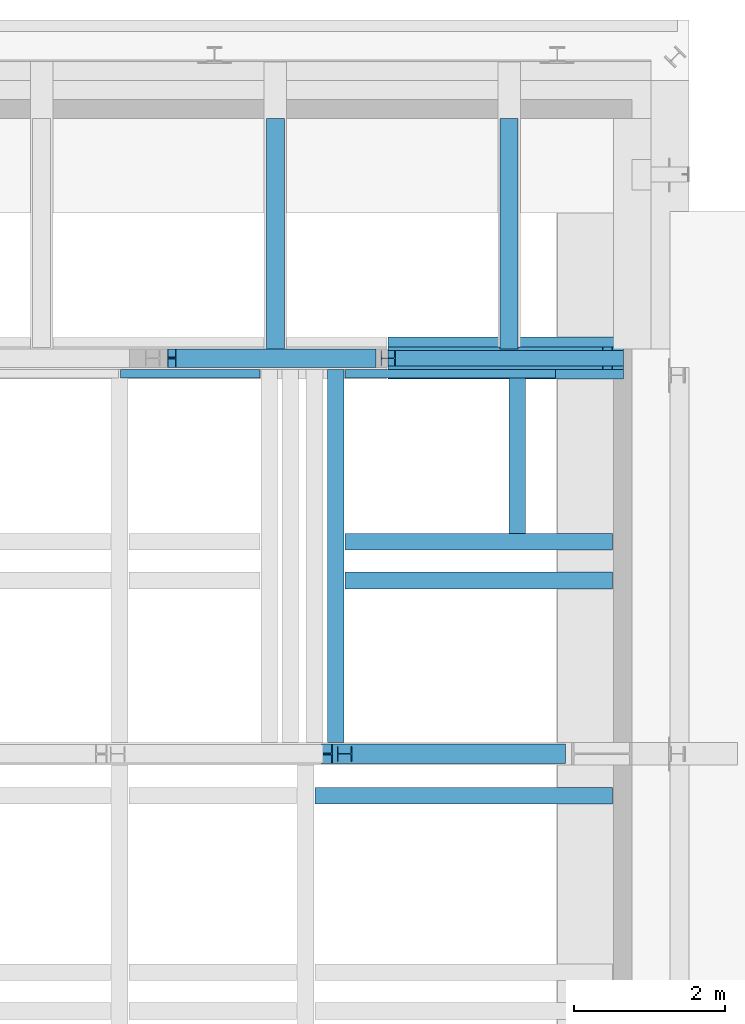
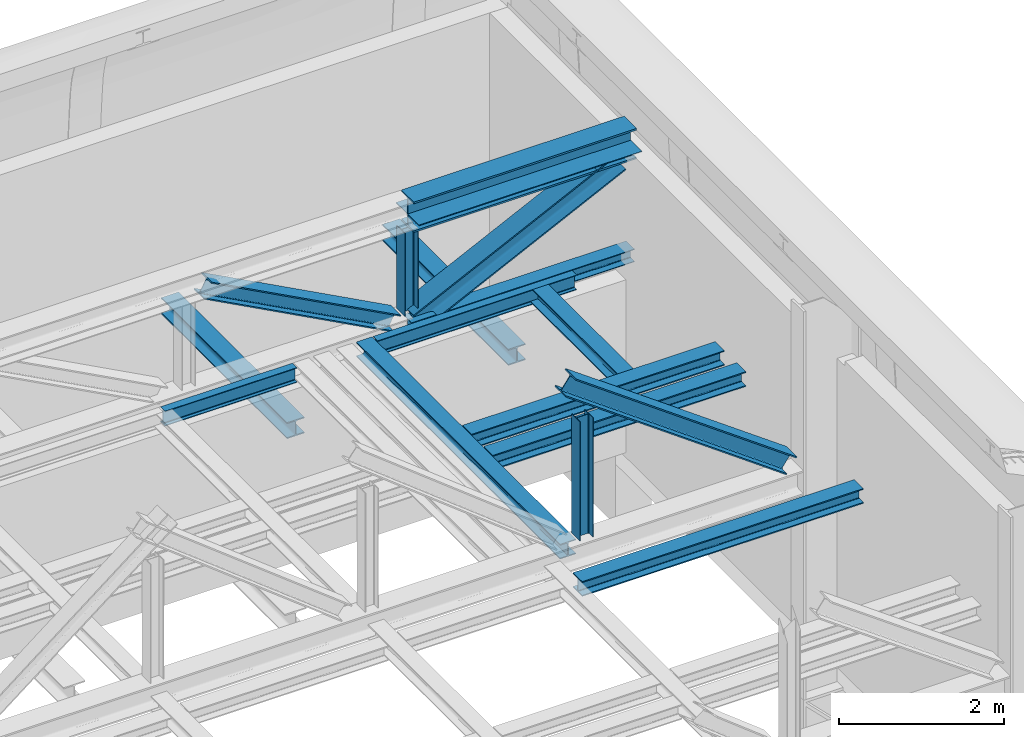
# One storey, part 23 of 29: 16 beams.
"""IFC2X3 building model written with IfcOpenShell, lengths in millimetres."""

import ifcopenshell
import ifcopenshell.guid

model = None  # the IFC model being written
_history = None  # IfcOwnerHistory: only IFC2X3 demands one
_inside = {}  # id of a spatial element -> (the spatial element, [elements in it])
_under = {}  # id of a project, library or spatial element -> (it, [spatial elements below it])
_declared = {}  # id of a project -> (the project, [libraries it declares])
_typed = {}  # id of a type object -> (the type object, [elements of that type])
_made_of = {}  # id of a material, layer set ... -> (it, [elements and type objects made of it])


def new_model(schema):
    """Start an empty IFC model of exactly this schema.

    Asked for "IFC4X3", IfcOpenShell would pick the latest addendum, in which some entities
    have other attributes; the version numbers below select the first issue.
    IFC2X3 requires an IfcOwnerHistory on every rooted entity: one is made here for all.
    """
    global model, _history
    if schema == "IFC4X3":
        model = ifcopenshell.file(schema_version=(4, 3, 0, 0))
    else:
        model = ifcopenshell.file(schema=schema)
    _inside.clear()
    _under.clear()
    _declared.clear()
    _typed.clear()
    _made_of.clear()
    _history = None
    if model.schema == "IFC2X3":
        org = make("IfcOrganization", Name="unknown")
        user = make(
            "IfcPersonAndOrganization",
            ThePerson=make("IfcPerson", FamilyName="unknown"),
            TheOrganization=org,
        )
        app = make(
            "IfcApplication",
            ApplicationDeveloper=org,
            Version="unknown",
            ApplicationFullName="unknown",
            ApplicationIdentifier="unknown",
        )
        _history = make(
            "IfcOwnerHistory",
            OwningUser=user,
            OwningApplication=app,
            ChangeAction="ADDED",
            CreationDate=0,
        )
    return model


def make(cls, **values):
    """One entity of the class cls with the attributes given. An attribute that is None is left unset."""
    return model.create_entity(
        cls, **{name: value for name, value in values.items() if value is not None}
    )


def entity(cls, *values):
    """Any entity or typed value of the class cls, its attributes in the order of the schema. None: left unset."""
    e = model.create_entity(cls)
    for i, value in enumerate(values):
        if value is not None:
            e[i] = value
    return e


def rooted(cls, **values):
    """An entity with a GlobalId (a new one), such as an element, a storey or a relation."""
    return make(cls, GlobalId=ifcopenshell.guid.new(), OwnerHistory=_history, **values)


def si_unit(unit_type, name, prefix=None):
    """IfcSIUnit, for example si_unit("LENGTHUNIT", "METRE", prefix="MILLI")."""
    return make("IfcSIUnit", UnitType=unit_type, Prefix=prefix, Name=name)


def converted_unit(unit_type, name, factor, base, dimensions=None, offset=None):
    """IfcConversionBasedUnit, such as the inch: factor (a typed value) times the base unit."""
    return make(
        "IfcConversionBasedUnit"
        if offset is None
        else "IfcConversionBasedUnitWithOffset",
        ConversionOffset=offset,
        Dimensions=None
        if dimensions is None
        else entity("IfcDimensionalExponents", *dimensions),
        UnitType=unit_type,
        Name=name,
        ConversionFactor=make(
            "IfcMeasureWithUnit", ValueComponent=factor, UnitComponent=base
        ),
    )


def derived_unit(unit_type, elements):
    """IfcDerivedUnit: a product of units, each with its exponent."""
    return make(
        "IfcDerivedUnit",
        Elements=[
            make("IfcDerivedUnitElement", Unit=unit, Exponent=power)
            for unit, power in elements
        ],
        UnitType=unit_type,
    )


def assignment(units):
    """IfcUnitAssignment: the units of a project."""
    return None if units is None else make("IfcUnitAssignment", Units=units)


def point(xyz):
    """IfcCartesianPoint."""
    return None if xyz is None else make("IfcCartesianPoint", Coordinates=xyz)


def direction(xyz):
    """IfcDirection."""
    return None if xyz is None else make("IfcDirection", DirectionRatios=xyz)


def frame(location, z_axis=None, x_axis=None):
    """IfcAxis2Placement3D, a coordinate frame: its origin and axes. An axis left out is left unset."""
    return make(
        "IfcAxis2Placement3D",
        Location=point(location),
        Axis=direction(z_axis),
        RefDirection=direction(x_axis),
    )


def frame_2d(location, x_axis=None):
    """IfcAxis2Placement2D, a coordinate frame in the plane: its origin and x axis."""
    return make(
        "IfcAxis2Placement2D", Location=point(location), RefDirection=direction(x_axis)
    )


def origin():
    """The frame at (0, 0, 0) with its axes left unset."""
    return frame((0.0, 0.0, 0.0))


def place(relative_to, where):
    """IfcLocalPlacement: puts the frame where relative to a parent placement (None: the world)."""
    return make(
        "IfcLocalPlacement", PlacementRelTo=relative_to, RelativePlacement=where
    )


def context(
    kind, dimensions, precision=None, world=None, true_north=None, identifier=None
):
    """IfcGeometricRepresentationContext, for example the 3D "Model" context."""
    return make(
        "IfcGeometricRepresentationContext",
        ContextIdentifier=identifier,
        ContextType=kind,
        CoordinateSpaceDimension=dimensions,
        Precision=precision,
        WorldCoordinateSystem=world,
        TrueNorth=true_north,
    )


def subcontext(parent, identifier, kind, view, scale=None):
    """IfcGeometricRepresentationSubContext, for example "Body" below "Model"."""
    return make(
        "IfcGeometricRepresentationSubContext",
        ContextIdentifier=identifier,
        ContextType=kind,
        ParentContext=parent,
        TargetScale=scale,
        TargetView=view,
    )


def project(units=None, contexts=None):
    """IfcProject with its units and contexts."""
    return rooted(
        "IfcProject",
        Name="project",
        RepresentationContexts=contexts,
        UnitsInContext=assignment(units),
    )


def spatial(cls, under=None, at=None, **own):
    """A site, building, storey or space (cls), placed at a placement, below another one or the project."""
    s = rooted(cls, ObjectPlacement=at, **own)
    if under is not None:
        _under.setdefault(under.id(), (under, []))[1].append(s)
    return s


def polyline(points):
    """IfcPolyline through the points."""
    return make("IfcPolyline", Points=[point(p) for p in points])


def circle_curve(where, radius):
    """IfcCircle in the frame where."""
    return make("IfcCircle", Position=where, Radius=radius)


def parameter(value):
    """IfcParameterValue: where a trimmed curve begins or ends, as a parameter of its basis curve."""
    return model.create_entity("IfcParameterValue", value)


def trimmed(basis, trim1, trim2, sense, master):
    """IfcTrimmedCurve: the piece of a basis curve between two trims."""
    return make(
        "IfcTrimmedCurve",
        BasisCurve=basis,
        Trim1=trim1,
        Trim2=trim2,
        SenseAgreement=sense,
        MasterRepresentation=master,
    )


def segment(curve, same_sense, transition):
    """IfcCompositeCurveSegment."""
    return make(
        "IfcCompositeCurveSegment",
        Transition=transition,
        SameSense=same_sense,
        ParentCurve=curve,
    )


def composite_curve(segments, self_intersect=None):
    """IfcCompositeCurve: segments joined end to end."""
    return make("IfcCompositeCurve", Segments=segments, SelfIntersect=self_intersect)


def profile(cls, at=None, kind="AREA", **sizes):
    """A parametric profile (cls). Its sizes go by their IFC names, for example OverallWidth=200.0."""
    return make(cls, ProfileType=kind, Position=at, **sizes)


def rectangle(**sizes):
    """IfcRectangleProfileDef."""
    return profile("IfcRectangleProfileDef", **sizes)


def i_section(**sizes):
    """IfcIShapeProfileDef."""
    return profile("IfcIShapeProfileDef", **sizes)


def outline(outer, holes=None, kind="AREA"):
    """IfcArbitraryClosedProfileDef: a profile drawn as a closed curve; with holes, ...WithVoids."""
    if holes is None:
        return make("IfcArbitraryClosedProfileDef", ProfileType=kind, OuterCurve=outer)
    return make(
        "IfcArbitraryProfileDefWithVoids",
        ProfileType=kind,
        OuterCurve=outer,
        InnerCurves=holes,
    )


def extrude(swept, where, along, depth):
    """IfcExtrudedAreaSolid: the profile swept, set in the frame where, extruded along a direction by depth."""
    return make(
        "IfcExtrudedAreaSolid",
        SweptArea=swept,
        Position=where,
        ExtrudedDirection=direction(along),
        Depth=depth,
    )


def shape(context_of_items, identifier, shape_type, items):
    """IfcShapeRepresentation: the items that make up one representation, for example the "Body"."""
    return make(
        "IfcShapeRepresentation",
        ContextOfItems=context_of_items,
        RepresentationIdentifier=identifier,
        RepresentationType=shape_type,
        Items=items,
    )


def source(mapping_origin, context_of_items, identifier, shape_type, items):
    """IfcRepresentationMap: a shape defined once, which mapped items show again and again."""
    return make(
        "IfcRepresentationMap",
        MappingOrigin=mapping_origin,
        MappedRepresentation=shape(context_of_items, identifier, shape_type, items),
    )


def transform(
    local_origin,
    x_axis=None,
    y_axis=None,
    z_axis=None,
    scale=None,
    scale2=None,
    scale3=None,
    uniform=True,
):
    """IfcCartesianTransformationOperator3D, or its non-uniform kind. x_axis, y_axis, z_axis: its Axis1, 2, 3."""
    if uniform:
        return make(
            "IfcCartesianTransformationOperator3D",
            Axis1=direction(x_axis),
            Axis2=direction(y_axis),
            LocalOrigin=point(local_origin),
            Scale=scale,
            Axis3=direction(z_axis),
        )
    return make(
        "IfcCartesianTransformationOperator3DnonUniform",
        Axis1=direction(x_axis),
        Axis2=direction(y_axis),
        LocalOrigin=point(local_origin),
        Scale=scale,
        Axis3=direction(z_axis),
        Scale2=scale2,
        Scale3=scale3,
    )


def mapped(mapping_source, mapping_target):
    """IfcMappedItem: shows the shape of a source again, moved by a transform."""
    return make(
        "IfcMappedItem", MappingSource=mapping_source, MappingTarget=mapping_target
    )


def material(Name=None, Category=None):
    """IfcMaterial."""
    return make("IfcMaterial", Name=Name, Category=Category)


def material_list(materials):
    """IfcMaterialList."""
    return make("IfcMaterialList", Materials=materials)


def made_of(thing, what):
    """Note that an element or type object is made of a material, layer set ...; save() writes the relation."""
    if what is not None:
        _made_of.setdefault(what.id(), (what, []))[1].append(thing)
    return thing


def type_object(cls, material=None, **own):
    """A type object (cls), such as IfcWallType, which elements share."""
    return made_of(rooted(cls, **own), material)


def type_shapes(of_type, sources):
    """Give a type object the sources (RepresentationMaps) that its elements show as mapped items."""
    of_type.RepresentationMaps = sources


def element(
    cls,
    number,
    at=None,
    inside=None,
    cuts=None,
    type_object=None,
    material=None,
    context=None,
    identifier="Body",
    shape_type=None,
    held_by="IfcProductDefinitionShape",
    body=None,
    shapes=None,
    **own,
):
    """One element of the class cls, such as IfcWall. Its Tag is "e" and its number.

    at: its placement. inside: the storey or other place that contains it. cuts: it is an
    opening in that element (IfcRelVoidsElement). A single representation is given by context,
    identifier, shape_type and body (its items); several are given by shapes. held_by: the class
    of the entity that holds the representations. save() writes the other relations.
    """
    e = rooted(cls, Tag="e%d" % number, ObjectPlacement=at, **own)
    if body is not None:
        shapes = [shape(context, identifier, shape_type, body)]
    if shapes is not None:
        e.Representation = make(held_by, Representations=shapes)
    if inside is not None:
        _inside.setdefault(inside.id(), (inside, []))[1].append(e)
    if cuts is not None:
        rooted(
            "IfcRelVoidsElement", RelatingBuildingElement=cuts, RelatedOpeningElement=e
        )
    if type_object is not None:
        _typed.setdefault(type_object.id(), (type_object, []))[1].append(e)
    return made_of(e, material)


def aggregate(whole, parts):
    """IfcRelAggregates: a whole, such as a stair, and the parts it consists of."""
    return rooted("IfcRelAggregates", RelatingObject=whole, RelatedObjects=parts)


def save(model, path):
    """Write the relations noted so far, then the file.

    IfcRelAggregates (storeys below a building ...), IfcRelContainedInSpatialStructure (elements
    in a storey), IfcRelDefinesByType, IfcRelAssociatesMaterial and IfcRelDeclares: one each for
    every whole, place, type object, material and project.
    """
    for whole, parts in _under.values():
        aggregate(whole, parts)
    for where, things in _inside.values():
        rooted(
            "IfcRelContainedInSpatialStructure",
            RelatedElements=things,
            RelatingStructure=where,
        )
    for kind, things in _typed.values():
        rooted("IfcRelDefinesByType", RelatedObjects=things, RelatingType=kind)
    for what, things in _made_of.values():
        rooted("IfcRelAssociatesMaterial", RelatedObjects=things, RelatingMaterial=what)
    for by, libraries in _declared.values():
        rooted("IfcRelDeclares", RelatingContext=by, RelatedDefinitions=libraries)
    model.write(path)


model = new_model("IFC2X3")

# Units and contexts
model_context = context("Model", 3, precision=0.01, world=origin(), true_north=direction((6.12303176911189e-17, 1.0)))
body_context = subcontext(model_context, "Body", "Model", "MODEL_VIEW")
ifc_project = project(units=[si_unit("LENGTHUNIT", "METRE", prefix="MILLI"), si_unit("AREAUNIT", "SQUARE_METRE", prefix="MILLI"), si_unit("VOLUMEUNIT", "CUBIC_METRE"), converted_unit("PLANEANGLEUNIT", "DEGREE", entity("IfcRatioMeasure", 0.0174532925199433), si_unit("PLANEANGLEUNIT", "RADIAN"), dimensions=[0, 0, 0, 0, 0, 0, 0]), si_unit("MASSUNIT", "GRAM", prefix="KILO"), derived_unit("MASSDENSITYUNIT", [(si_unit("MASSUNIT", "GRAM", prefix="KILO"), 1), (si_unit("LENGTHUNIT", "METRE"), -3)]), derived_unit("MOMENTOFINERTIAUNIT", [(si_unit("LENGTHUNIT", "METRE"), 4)]), si_unit("TIMEUNIT", "SECOND"), si_unit("FREQUENCYUNIT", "HERTZ"), si_unit("THERMODYNAMICTEMPERATUREUNIT", "DEGREE_CELSIUS"), derived_unit("THERMALTRANSMITTANCEUNIT", [(si_unit("MASSUNIT", "GRAM", prefix="KILO"), 1), (si_unit("THERMODYNAMICTEMPERATUREUNIT", "KELVIN"), -1), (si_unit("TIMEUNIT", "SECOND"), -3)]), derived_unit("VOLUMETRICFLOWRATEUNIT", [(si_unit("LENGTHUNIT", "METRE"), 3), (si_unit("TIMEUNIT", "SECOND"), -1)]), si_unit("ELECTRICCURRENTUNIT", "AMPERE"), si_unit("ELECTRICVOLTAGEUNIT", "VOLT"), si_unit("POWERUNIT", "WATT"), si_unit("FORCEUNIT", "NEWTON", prefix="KILO"), si_unit("ILLUMINANCEUNIT", "LUX"), si_unit("LUMINOUSFLUXUNIT", "LUMEN"), si_unit("LUMINOUSINTENSITYUNIT", "CANDELA"), derived_unit("USERDEFINED", [(si_unit("MASSUNIT", "GRAM", prefix="KILO"), -1), (si_unit("LENGTHUNIT", "METRE"), -2), (si_unit("TIMEUNIT", "SECOND"), 3), (si_unit("LUMINOUSFLUXUNIT", "LUMEN"), 1)]), derived_unit("LINEARVELOCITYUNIT", [(si_unit("LENGTHUNIT", "METRE"), 1), (si_unit("TIMEUNIT", "SECOND"), -1)]), si_unit("PRESSUREUNIT", "PASCAL"), derived_unit("USERDEFINED", [(si_unit("LENGTHUNIT", "METRE"), -2), (si_unit("MASSUNIT", "GRAM", prefix="KILO"), 1), (si_unit("TIMEUNIT", "SECOND"), -2)]), derived_unit("LINEARFORCEUNIT", [(si_unit("MASSUNIT", "GRAM", prefix="KILO"), 1), (si_unit("LENGTHUNIT", "METRE"), 1), (si_unit("TIMEUNIT", "SECOND"), -2), (si_unit("LENGTHUNIT", "METRE"), -1)]), derived_unit("PLANARFORCEUNIT", [(si_unit("MASSUNIT", "GRAM", prefix="KILO"), 1), (si_unit("LENGTHUNIT", "METRE"), 1), (si_unit("TIMEUNIT", "SECOND"), -2), (si_unit("LENGTHUNIT", "METRE"), -2)])], contexts=[model_context])

# Site, building, storey
site_placement = place(None, origin())
site = spatial("IfcSite", under=ifc_project, at=site_placement, Name="Theater aan de Parade", CompositionType="ELEMENT")
building_placement = place(site_placement, origin())
building = spatial("IfcBuilding", under=site, at=building_placement, Name="Theater aan de Parade", CompositionType="ELEMENT")
storey_placement = place(building_placement, frame((0.0, 0.0, 20300.0)))
storey = spatial("IfcBuildingStorey", under=building, at=storey_placement, Name="05 vijfde verdieping", CompositionType="ELEMENT", Elevation=20300.0)

# Beams
ifc_material_1 = material(Name="00_PBT_MAT_staal_S355")
beam_type_1 = type_object("IfcBeamType", Name="28_PBT_SF_staal_H-profiel:S355_HE220B", PredefinedType="NOTDEFINED")
beam_1_placement = place(storey_placement, frame((86180.0, 42712.5000000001, 0.0), z_axis=(0.0, 0.0, 1.0), x_axis=(-1.0, 0.0, 0.0)))
element("IfcBeam", 1, at=beam_1_placement, inside=storey, type_object=beam_type_1, material=ifc_material_1, Name="28_PBT_SF_staal_H-profiel:S355_HE220B", ObjectType="28_PBT_SF_staal_H-profiel:S355_HE220B", context=body_context, shape_type="SweptSolid", body=[
    extrude(outline(composite_curve([segment(polyline([(94.0, -110.0), (110.0, -110.0)]), True, "CONTINUOUS"), segment(polyline([(110.0, -110.0), (110.0, 110.0)]), True, "CONTINUOUS"), segment(polyline([(110.0, 110.0), (94.0, 110.0)]), True, "CONTINUOUS"), segment(polyline([(94.0, 110.0), (94.0, 22.7500000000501)]), True, "CONTINUOUS"), segment(trimmed(circle_curve(frame_2d((76.0, 22.7500000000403), x_axis=(1.0, 0.0)), 17.9999999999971), [parameter(269.999999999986)], [parameter(0.0)], True, "PARAMETER"), False, "CONTINUOUS"), segment(polyline([(76.0, 4.75000000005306), (-76.0, 4.7499999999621)]), True, "CONTINUOUS"), segment(trimmed(circle_curve(frame_2d((-76.0, 22.749999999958), x_axis=(0.0, -1.0)), 17.9999999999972), [parameter(269.999999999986)], [parameter(0.0)], True, "PARAMETER"), False, "CONTINUOUS"), segment(polyline([(-94.0, 22.7499999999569), (-94.0, 110.0)]), True, "CONTINUOUS"), segment(polyline([(-94.0, 110.0), (-110.0, 110.0)]), True, "CONTINUOUS"), segment(polyline([(-110.0, 110.0), (-110.0, -110.0)]), True, "CONTINUOUS"), segment(polyline([(-110.0, -110.0), (-94.0, -110.0)]), True, "CONTINUOUS"), segment(polyline([(-94.0, -110.0), (-94.0, -22.7500000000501)]), True, "CONTINUOUS"), segment(trimmed(circle_curve(frame_2d((-76.0, -22.7500000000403), x_axis=(-1.0, 0.0)), 17.9999999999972), [parameter(269.999999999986)], [parameter(0.0)], True, "PARAMETER"), False, "CONTINUOUS"), segment(polyline([(-76.0, -4.75000000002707), (76.0, -4.74999999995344)]), True, "CONTINUOUS"), segment(trimmed(circle_curve(frame_2d((76.0, -22.749999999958), x_axis=(0.0, 1.0)), 17.9999999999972), [parameter(269.999999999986)], [parameter(0.0)], True, "PARAMETER"), False, "CONTINUOUS"), segment(polyline([(94.0, -22.7499999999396), (94.0, -110.0)]), True, "CONTINUOUS")], self_intersect=False)), frame((137.699999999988, 0.0, 2360.0), z_axis=(1.0, 0.0, 0.0), x_axis=(0.0, 0.0, -1.0)), (0.0, 0.0, 1.0), 3529.60000000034),
])
beam_2_placement = place(storey_placement, frame((86180.0, 42198.4998000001, 0.0), z_axis=(0.0, 0.0, 1.0), x_axis=(-1.0, 0.0, 0.0)))
element("IfcBeam", 2, at=beam_2_placement, inside=storey, type_object=beam_type_1, material=ifc_material_1, Name="28_PBT_SF_staal_H-profiel:S355_HE220B", ObjectType="28_PBT_SF_staal_H-profiel:S355_HE220B", context=body_context, shape_type="SweptSolid", body=[
    extrude(outline(composite_curve([segment(polyline([(94.0, -110.0), (110.0, -110.0)]), True, "CONTINUOUS"), segment(polyline([(110.0, -110.0), (110.0, 110.0)]), True, "CONTINUOUS"), segment(polyline([(110.0, 110.0), (94.0, 110.0)]), True, "CONTINUOUS"), segment(polyline([(94.0, 110.0), (94.0, 22.7500000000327)]), True, "CONTINUOUS"), segment(trimmed(circle_curve(frame_2d((76.0, 22.750000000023), x_axis=(1.0, 0.0)), 17.9999999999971), [parameter(269.999999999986)], [parameter(0.0)], True, "PARAMETER"), False, "CONTINUOUS"), segment(polyline([(76.0, 4.75000000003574), (-76.0, 4.74999999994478)]), True, "CONTINUOUS"), segment(trimmed(circle_curve(frame_2d((-76.0, 22.7499999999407), x_axis=(0.0, -1.0)), 17.9999999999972), [parameter(269.999999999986)], [parameter(0.0)], True, "PARAMETER"), False, "CONTINUOUS"), segment(polyline([(-94.0, 22.7499999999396), (-94.0, 110.0)]), True, "CONTINUOUS"), segment(polyline([(-94.0, 110.0), (-110.0, 110.0)]), True, "CONTINUOUS"), segment(polyline([(-110.0, 110.0), (-110.0, -110.0)]), True, "CONTINUOUS"), segment(polyline([(-110.0, -110.0), (-94.0, -110.0)]), True, "CONTINUOUS"), segment(polyline([(-94.0, -110.0), (-94.0, -22.7500000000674)]), True, "CONTINUOUS"), segment(trimmed(circle_curve(frame_2d((-76.0, -22.7500000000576), x_axis=(-1.0, 0.0)), 17.9999999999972), [parameter(269.999999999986)], [parameter(0.0)], True, "PARAMETER"), False, "CONTINUOUS"), segment(polyline([(-76.0, -4.7500000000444), (76.0, -4.74999999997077)]), True, "CONTINUOUS"), segment(trimmed(circle_curve(frame_2d((76.0, -22.7499999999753), x_axis=(0.0, 1.0)), 17.9999999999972), [parameter(269.999999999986)], [parameter(0.0)], True, "PARAMETER"), False, "CONTINUOUS"), segment(polyline([(94.0, -22.7499999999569), (94.0, -110.0)]), True, "CONTINUOUS")], self_intersect=False)), frame((137.700000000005, 0.0, 2360.0), z_axis=(1.0, 0.0, 0.0), x_axis=(0.0, 0.0, -1.0)), (0.0, 0.0, 1.0), 3529.60000000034),
])
beam_3_placement = place(storey_placement, frame((86180.0, 39355.4997999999, 0.0), z_axis=(0.0, 0.0, 1.0), x_axis=(-1.0, 0.0, 0.0)))
element("IfcBeam", 3, at=beam_3_placement, inside=storey, type_object=beam_type_1, material=ifc_material_1, Name="28_PBT_SF_staal_H-profiel:S355_HE220B", ObjectType="28_PBT_SF_staal_H-profiel:S355_HE220B", context=body_context, shape_type="SweptSolid", body=[
    extrude(outline(composite_curve([segment(polyline([(94.0, -110.0), (110.0, -110.0)]), True, "CONTINUOUS"), segment(polyline([(110.0, -110.0), (110.0, 110.0)]), True, "CONTINUOUS"), segment(polyline([(110.0, 110.0), (94.0, 110.0)]), True, "CONTINUOUS"), segment(polyline([(94.0, 110.0), (94.0, 22.7500000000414)]), True, "CONTINUOUS"), segment(trimmed(circle_curve(frame_2d((76.0, 22.7500000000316), x_axis=(1.0, 0.0)), 17.9999999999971), [parameter(269.999999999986)], [parameter(0.0)], True, "PARAMETER"), False, "CONTINUOUS"), segment(polyline([(76.0, 4.7500000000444), (-76.0, 4.74999999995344)]), True, "CONTINUOUS"), segment(trimmed(circle_curve(frame_2d((-76.0, 22.7499999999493), x_axis=(0.0, -1.0)), 17.9999999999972), [parameter(269.999999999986)], [parameter(0.0)], True, "PARAMETER"), False, "CONTINUOUS"), segment(polyline([(-94.0, 22.7499999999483), (-94.0, 110.0)]), True, "CONTINUOUS"), segment(polyline([(-94.0, 110.0), (-110.0, 110.0)]), True, "CONTINUOUS"), segment(polyline([(-110.0, 110.0), (-110.0, -110.0)]), True, "CONTINUOUS"), segment(polyline([(-110.0, -110.0), (-94.0, -110.0)]), True, "CONTINUOUS"), segment(polyline([(-94.0, -110.0), (-94.0, -22.7500000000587)]), True, "CONTINUOUS"), segment(trimmed(circle_curve(frame_2d((-76.0, -22.750000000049), x_axis=(-1.0, 0.0)), 17.9999999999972), [parameter(269.999999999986)], [parameter(0.0)], True, "PARAMETER"), False, "CONTINUOUS"), segment(polyline([(-76.0, -4.75000000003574), (76.0, -4.7499999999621)]), True, "CONTINUOUS"), segment(trimmed(circle_curve(frame_2d((76.0, -22.7499999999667), x_axis=(0.0, 1.0)), 17.9999999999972), [parameter(269.999999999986)], [parameter(0.0)], True, "PARAMETER"), False, "CONTINUOUS"), segment(polyline([(94.0, -22.7499999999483), (94.0, -110.0)]), True, "CONTINUOUS")], self_intersect=False)), frame((137.699999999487, 0.0, 2360.0), z_axis=(1.0, 0.0, 0.0), x_axis=(0.0, 0.0, -1.0)), (0.0, 0.0, 1.0), 3924.60000000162),
])
beam_4_placement = place(storey_placement, frame((84787.5133272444, 42822.5000000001, 0.0), z_axis=(0.0, 0.0, 1.0), x_axis=(0.0, 1.0, 0.0)))
element("IfcBeam", 4, at=beam_4_placement, inside=storey, type_object=beam_type_1, material=ifc_material_1, Name="28_PBT_SF_staal_H-profiel:S355_HE220B", ObjectType="28_PBT_SF_staal_H-profiel:S355_HE220B", context=body_context, shape_type="SweptSolid", body=[
    extrude(outline(composite_curve([segment(polyline([(94.0, -110.0), (110.0, -110.0)]), True, "CONTINUOUS"), segment(polyline([(110.0, -110.0), (110.0, 110.0)]), True, "CONTINUOUS"), segment(polyline([(110.0, 110.0), (94.0, 110.0)]), True, "CONTINUOUS"), segment(polyline([(94.0, 110.0), (94.0, 22.7499999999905)]), True, "CONTINUOUS"), segment(trimmed(circle_curve(frame_2d((76.0, 22.7499999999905), x_axis=(1.0, 0.0)), 17.9999999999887), [parameter(269.999999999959)], [parameter(0.0)], True, "PARAMETER"), False, "CONTINUOUS"), segment(polyline([(76.0, 4.74999999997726), (-76.0, 4.74999999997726)]), True, "CONTINUOUS"), segment(trimmed(circle_curve(frame_2d((-76.0, 22.7499999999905), x_axis=(0.0, -1.0)), 17.9999999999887), [parameter(269.999999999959)], [parameter(0.0)], True, "PARAMETER"), False, "CONTINUOUS"), segment(polyline([(-94.0, 22.7499999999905), (-94.0, 110.0)]), True, "CONTINUOUS"), segment(polyline([(-94.0, 110.0), (-110.0, 110.0)]), True, "CONTINUOUS"), segment(polyline([(-110.0, 110.0), (-110.0, -110.0)]), True, "CONTINUOUS"), segment(polyline([(-110.0, -110.0), (-94.0, -110.0)]), True, "CONTINUOUS"), segment(polyline([(-94.0, -110.0), (-94.0, -22.7500000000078)]), True, "CONTINUOUS"), segment(trimmed(circle_curve(frame_2d((-76.0, -22.7500000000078), x_axis=(-1.0, 0.0)), 17.9999999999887), [parameter(269.999999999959)], [parameter(0.0)], True, "PARAMETER"), False, "CONTINUOUS"), segment(polyline([(-76.0, -4.75000000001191), (76.0, -4.75000000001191)]), True, "CONTINUOUS"), segment(trimmed(circle_curve(frame_2d((76.0, -22.7500000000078), x_axis=(0.0, 1.0)), 17.9999999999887), [parameter(269.999999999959)], [parameter(0.0)], True, "PARAMETER"), False, "CONTINUOUS"), segment(polyline([(94.0, -22.7500000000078), (94.0, -110.0)]), True, "CONTINUOUS")], self_intersect=False)), frame((0.0, 0.0, 2360.0), z_axis=(1.0, 0.0, 0.0), x_axis=(0.0, 0.0, -1.0)), (0.0, 0.0, 1.0), 2162.49999999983),
])
beam_5_placement = place(storey_placement, frame((82390.0, 40060.0, 0.0), z_axis=(0.0, 0.0, 1.0), x_axis=(0.0, 1.0, 0.0)))
element("IfcBeam", 5, at=beam_5_placement, inside=storey, type_object=beam_type_1, material=ifc_material_1, Name="28_PBT_SF_staal_H-profiel:S355_HE220B", ObjectType="28_PBT_SF_staal_H-profiel:S355_HE220B", context=body_context, shape_type="SweptSolid", body=[
    extrude(outline(composite_curve([segment(polyline([(94.0, -110.0), (110.0, -110.0)]), True, "CONTINUOUS"), segment(polyline([(110.0, -110.0), (110.0, 110.0)]), True, "CONTINUOUS"), segment(polyline([(110.0, 110.0), (94.0, 110.0)]), True, "CONTINUOUS"), segment(polyline([(94.0, 110.0), (94.0, 22.7500000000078)]), True, "CONTINUOUS"), segment(trimmed(circle_curve(frame_2d((76.0, 22.7500000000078), x_axis=(1.0, 0.0)), 17.9999999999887), [parameter(269.999999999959)], [parameter(0.0)], True, "PARAMETER"), False, "CONTINUOUS"), segment(polyline([(76.0, 4.74999999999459), (-76.0, 4.74999999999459)]), True, "CONTINUOUS"), segment(trimmed(circle_curve(frame_2d((-76.0, 22.7500000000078), x_axis=(0.0, -1.0)), 17.9999999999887), [parameter(269.999999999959)], [parameter(0.0)], True, "PARAMETER"), False, "CONTINUOUS"), segment(polyline([(-94.0, 22.7500000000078), (-94.0, 110.0)]), True, "CONTINUOUS"), segment(polyline([(-94.0, 110.0), (-110.0, 110.0)]), True, "CONTINUOUS"), segment(polyline([(-110.0, 110.0), (-110.0, -110.0)]), True, "CONTINUOUS"), segment(polyline([(-110.0, -110.0), (-94.0, -110.0)]), True, "CONTINUOUS"), segment(polyline([(-94.0, -110.0), (-94.0, -22.7499999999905)]), True, "CONTINUOUS"), segment(trimmed(circle_curve(frame_2d((-76.0, -22.7499999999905), x_axis=(-1.0, 0.0)), 17.9999999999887), [parameter(269.999999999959)], [parameter(0.0)], True, "PARAMETER"), False, "CONTINUOUS"), segment(polyline([(-76.0, -4.74999999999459), (76.0, -4.74999999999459)]), True, "CONTINUOUS"), segment(trimmed(circle_curve(frame_2d((76.0, -22.7499999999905), x_axis=(0.0, 1.0)), 17.9999999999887), [parameter(269.999999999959)], [parameter(0.0)], True, "PARAMETER"), False, "CONTINUOUS"), segment(polyline([(94.0, -22.7499999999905), (94.0, -110.0)]), True, "CONTINUOUS")], self_intersect=False)), frame((0.0, 0.0, 2360.0), z_axis=(1.0, 0.0, 0.0), x_axis=(0.0, 0.0, -1.0)), (0.0, 0.0, 1.0), 4925.00000000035),
])
beam_type_2 = type_object("IfcBeamType", Name="28_PBT_SF_staal_H-profiel:S355_HE300B", PredefinedType="NOTDEFINED")
beam_6_placement = place(storey_placement, frame((83045.1604217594, 45135.0, 2400.0), z_axis=(-0.437012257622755, 0.0, 0.899455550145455), x_axis=(0.899455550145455, 0.0, 0.437012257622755)))
element("IfcBeam", 6, at=beam_6_placement, inside=storey, type_object=beam_type_2, material=ifc_material_1, Name="28_PBT_SF_staal_H-profiel:S355_HE300B", ObjectType="28_PBT_SF_staal_H-profiel:S355_HE300B", context=body_context, shape_type="SweptSolid", body=[
    extrude(i_section(OverallWidth=300.000000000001, OverallDepth=299.999999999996, WebThickness=10.9999999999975, FlangeThickness=18.9999999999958, FilletRadius=26.9999999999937, at=frame_2d((0.0, -1.73230318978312e-11), x_axis=(0.0, 1.0))), frame((110.718297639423, 0.0, 0.0), z_axis=(1.0, 0.0, 0.0), x_axis=(0.0, 0.0, -1.0)), (0.0, 0.0, 1.0), 3151.58170236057),
])
beam_type_3 = type_object("IfcBeamType", Name="28_PBT_SF_staal_H-profiel:S355_HE200A", PredefinedType="NOTDEFINED")
beam_7_placement = place(storey_placement, frame((82507.137310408, 39910.0, 2429.0), z_axis=(1.0, 0.0, 0.0), x_axis=(0.0, 0.0, 1.0)))
element("IfcBeam", 7, at=beam_7_placement, inside=storey, type_object=beam_type_3, material=ifc_material_1, Name="28_PBT_SF_staal_H-profiel:S355_HE200A", ObjectType="28_PBT_SF_staal_H-profiel:S355_HE200A", context=body_context, shape_type="SweptSolid", body=[
    extrude(i_section(OverallWidth=199.999999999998, OverallDepth=189.999999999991, WebThickness=6.49999999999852, FlangeThickness=9.99999999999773, FilletRadius=17.9999999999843, at=frame_2d((0.0, -4.33431068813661e-12), x_axis=(0.0, 1.0))), frame((192.700000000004, 0.0, 0.0), z_axis=(1.0, 0.0, 0.0), x_axis=(0.0, 0.0, -1.0)), (0.0, 0.0, 1.0), 1757.6),
])
beam_8_placement = place(storey_placement, frame((83081.2561009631, 45135.0, 2400.0), z_axis=(1.0, 0.0, 0.0), x_axis=(0.0, 0.0, 1.0)))
element("IfcBeam", 8, at=beam_8_placement, inside=storey, type_object=beam_type_3, material=ifc_material_1, Name="28_PBT_SF_staal_H-profiel:S355_HE200A", ObjectType="28_PBT_SF_staal_H-profiel:S355_HE200A", context=body_context, shape_type="SweptSolid", body=[
    extrude(i_section(OverallWidth=200.000000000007, OverallDepth=189.999999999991, WebThickness=6.50000000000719, FlangeThickness=9.99999999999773, FilletRadius=17.9999999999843, at=frame_2d((0.0, 4.33431068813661e-12), x_axis=(0.0, 1.0))), frame((162.699999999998, 0.0, 0.0), z_axis=(1.0, 0.0, 0.0), x_axis=(0.0, 0.0, -1.0)), (0.0, 0.0, 1.0), 1224.60000000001),
])
beam_9_placement = place(storey_placement, frame((83081.2561009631, 45135.0, 2345.0)))
element("IfcBeam", 9, at=beam_9_placement, inside=storey, type_object=beam_type_3, material=ifc_material_1, Name="28_PBT_SF_staal_H-profiel:S355_HE200A", ObjectType="28_PBT_SF_staal_H-profiel:S355_HE200A", context=body_context, shape_type="SweptSolid", body=[
    extrude(i_section(OverallWidth=200.000000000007, OverallDepth=190.0, WebThickness=6.49999999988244, FlangeThickness=9.99999999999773, FilletRadius=17.9999999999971, at=frame_2d((-4.33431068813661e-12, -4.33431068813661e-12), x_axis=(0.0, 1.0))), frame((0.0, 0.0, 0.0), z_axis=(1.0, 0.0, 0.0), x_axis=(0.0, 0.0, -1.0)), (0.0, 0.0, 1.0), 3110.00000000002),
])
beam_type_4 = type_object("IfcBeamType", Name="28_PBT_SF_staal_H-profiel:S355_HE260B", PredefinedType="NOTDEFINED")
beam_10_placement = place(storey_placement, frame((82270.241600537, 39910.0, 4949.0), z_axis=(0.586032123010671, 0.0, 0.810287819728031), x_axis=(0.810287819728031, 0.0, -0.586032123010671)))
element("IfcBeam", 10, at=beam_10_placement, inside=storey, type_object=beam_type_4, material=ifc_material_1, Name="28_PBT_SF_staal_H-profiel:S355_HE260B", ObjectType="28_PBT_SF_staal_H-profiel:S355_HE260B", context=body_context, shape_type="SweptSolid", body=[
    extrude(i_section(OverallWidth=260.000000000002, OverallDepth=260.000000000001, WebThickness=9.99999999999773, FlangeThickness=17.4999999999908, FilletRadius=24.0000000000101, at=frame_2d((-1.03455022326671e-11, 1.29887212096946e-11), x_axis=(0.0, 1.0))), frame((0.0, 0.0, 0.0), z_axis=(1.0, 0.0, 0.0), x_axis=(0.0, 0.0, -1.0)), (0.0, 0.0, 1.0), 3800.50834761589),
])
beam_type_5 = type_object("IfcBeamType", Name="28_PBT_SF_staal_H-profiel:S355_HE240B", PredefinedType="NOTDEFINED")
beam_11_placement = place(storey_placement, frame((79971.2561009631, 45135.0, 4062.5), z_axis=(0.471434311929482, 0.0, 0.88190117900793), x_axis=(0.88190117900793, 0.0, -0.471434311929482)))
element("IfcBeam", 11, at=beam_11_placement, inside=storey, type_object=beam_type_5, material=ifc_material_1, Name="28_PBT_SF_staal_H-profiel:S355_HE240B", ObjectType="28_PBT_SF_staal_H-profiel:S355_HE240B", context=body_context, shape_type="SweptSolid", body=[
    extrude(i_section(OverallWidth=239.999999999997, OverallDepth=240.0, WebThickness=9.99999999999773, FlangeThickness=16.9999999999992, FilletRadius=21.0000000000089, at=frame_2d((1.91135995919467e-12, 0.0), x_axis=(0.0, 1.0))), frame((287.015721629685, 0.0, 0.0), z_axis=(1.0, 0.0, 0.0), x_axis=(0.0, 0.0, -1.0)), (0.0, 0.0, 1.0), 2995.26646657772),
])
beam_12_placement = place(storey_placement, frame((84679.5647725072, 48302.0, 0.0), z_axis=(0.0, 0.0, 1.0), x_axis=(0.0, -1.0, 0.0)))
element("IfcBeam", 12, at=beam_12_placement, inside=storey, type_object=beam_type_5, material=ifc_material_1, Name="28_PBT_SF_staal_H-profiel:S355_HE240B", ObjectType="28_PBT_SF_staal_H-profiel:S355_HE240B", context=body_context, shape_type="SweptSolid", body=[
    extrude(i_section(OverallWidth=239.999999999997, OverallDepth=239.999999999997, WebThickness=9.99999999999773, FlangeThickness=17.0000000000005, FilletRadius=20.9999999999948, at=frame_2d((-4.33431068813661e-12, -8.66151594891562e-12), x_axis=(0.0, 1.0))), frame((0.0, 0.0, 1275.0), z_axis=(1.0, 0.0, 0.0), x_axis=(0.0, 0.0, -1.0)), (0.0, 0.0, 1.0), 3041.99999999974),
])
beam_13_placement = place(storey_placement, frame((81592.5266654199, 48302.0, 0.0), z_axis=(0.0, 0.0, 1.0), x_axis=(0.0, -1.0, 0.0)))
element("IfcBeam", 13, at=beam_13_placement, inside=storey, type_object=beam_type_5, material=ifc_material_1, Name="28_PBT_SF_staal_H-profiel:S355_HE240B", ObjectType="28_PBT_SF_staal_H-profiel:S355_HE240B", context=body_context, shape_type="SweptSolid", body=[
    extrude(outline(composite_curve([segment(polyline([(103.0, -120.0), (120.0, -120.0)]), True, "CONTINUOUS"), segment(polyline([(120.0, -120.0), (120.0, 120.0)]), True, "CONTINUOUS"), segment(polyline([(120.0, 120.0), (103.0, 120.0)]), True, "CONTINUOUS"), segment(polyline([(103.0, 120.0), (103.0, 26.0)]), True, "CONTINUOUS"), segment(trimmed(circle_curve(frame_2d((82.0, 26.0), x_axis=(1.0, 0.0)), 20.9999999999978), [parameter(269.999999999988)], [parameter(0.0)], True, "PARAMETER"), False, "CONTINUOUS"), segment(polyline([(82.0, 5.0), (-82.0, 5.0)]), True, "CONTINUOUS"), segment(trimmed(circle_curve(frame_2d((-82.0, 26.0), x_axis=(0.0, -1.0)), 20.9999999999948), [parameter(269.999999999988)], [parameter(0.0)], True, "PARAMETER"), False, "CONTINUOUS"), segment(polyline([(-103.0, 26.0), (-103.0, 120.0)]), True, "CONTINUOUS"), segment(polyline([(-103.0, 120.0), (-120.0, 120.0)]), True, "CONTINUOUS"), segment(polyline([(-120.0, 120.0), (-120.0, -120.0)]), True, "CONTINUOUS"), segment(polyline([(-120.0, -120.0), (-103.0, -120.0)]), True, "CONTINUOUS"), segment(polyline([(-103.0, -120.0), (-103.0, -26.0)]), True, "CONTINUOUS"), segment(trimmed(circle_curve(frame_2d((-82.0, -26.0), x_axis=(-1.0, 0.0)), 20.9999999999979), [parameter(269.999999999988)], [parameter(0.0)], True, "PARAMETER"), False, "CONTINUOUS"), segment(polyline([(-82.0, -5.0), (82.0, -5.0)]), True, "CONTINUOUS"), segment(trimmed(circle_curve(frame_2d((82.0, -26.0), x_axis=(0.0, 1.0)), 20.9999999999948), [parameter(269.999999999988)], [parameter(0.0)], True, "PARAMETER"), False, "CONTINUOUS"), segment(polyline([(103.0, -26.0), (103.0, -120.0)]), True, "CONTINUOUS")], self_intersect=False)), frame((0.0, 0.0, 1275.0), z_axis=(1.0, 0.0, 0.0), x_axis=(0.0, 0.0, -1.0)), (0.0, 0.0, 1.0), 3041.99999999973),
])
beam_type_6 = type_object("IfcBeamType", Name="28_PBT_SF_staal_IPE-profiel:S355_IPE220", PredefinedType="NOTDEFINED")
beam_14_placement = place(storey_placement, frame((81510.0, 44930.0, 0.0), z_axis=(0.0, 0.0, 1.0), x_axis=(-1.0, 0.0, 0.0)))
element("IfcBeam", 14, at=beam_14_placement, inside=storey, type_object=beam_type_6, material=ifc_material_1, Name="28_PBT_SF_staal_IPE-profiel:S355_IPE220", ObjectType="28_PBT_SF_staal_IPE-profiel:S355_IPE220", context=body_context, shape_type="SweptSolid", body=[
    extrude(outline(composite_curve([segment(polyline([(100.800000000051, -55.0), (110.0, -55.0)]), True, "CONTINUOUS"), segment(polyline([(110.0, -55.0), (110.0, 55.0)]), True, "CONTINUOUS"), segment(polyline([(110.0, 55.0), (100.799999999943, 55.0)]), True, "CONTINUOUS"), segment(polyline([(100.799999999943, 55.0), (100.799999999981, 14.9500000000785)]), True, "CONTINUOUS"), segment(trimmed(circle_curve(frame_2d((88.7999999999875, 14.9500000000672), x_axis=(1.0, 0.0)), 11.9999999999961), [parameter(269.999999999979)], [parameter(0.0)], True, "PARAMETER"), False, "CONTINUOUS"), segment(polyline([(88.7999999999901, 2.95000000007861), (-88.8000000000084, 2.94999999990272)]), True, "CONTINUOUS"), segment(trimmed(circle_curve(frame_2d((-88.8000000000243, 14.9499999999), x_axis=(0.0, -1.0)), 11.9999999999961), [parameter(269.999999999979)], [parameter(0.0)], True, "PARAMETER"), False, "CONTINUOUS"), segment(polyline([(-100.800000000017, 14.9499999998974), (-100.800000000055, 55.0)]), True, "CONTINUOUS"), segment(polyline([(-100.800000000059, 55.0), (-110.0, 55.0)]), True, "CONTINUOUS"), segment(polyline([(-110.0, 55.0), (-110.0, -55.0)]), True, "CONTINUOUS"), segment(polyline([(-110.0, -55.0), (-100.799999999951, -55.0)]), True, "CONTINUOUS"), segment(polyline([(-100.799999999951, -55.0), (-100.799999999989, -14.9500000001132)]), True, "CONTINUOUS"), segment(trimmed(circle_curve(frame_2d((-88.7999999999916, -14.9500000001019), x_axis=(-1.0, 0.0)), 11.9999999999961), [parameter(269.999999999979)], [parameter(0.0)], True, "PARAMETER"), False, "CONTINUOUS"), segment(polyline([(-88.7999999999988, -2.95000000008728), (88.8000000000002, -2.94999999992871)]), True, "CONTINUOUS"), segment(trimmed(circle_curve(frame_2d((88.8000000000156, -14.9499999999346), x_axis=(0.0, 1.0)), 11.9999999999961), [parameter(269.999999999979)], [parameter(0.0)], True, "PARAMETER"), False, "CONTINUOUS"), segment(polyline([(100.800000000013, -14.9499999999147), (100.800000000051, -55.0)]), True, "CONTINUOUS")], self_intersect=False)), frame((122.700000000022, 0.0, 2360.0), z_axis=(1.0, 0.0, 0.0), x_axis=(0.0, 0.0, -1.0)), (0.0, 0.0, 1.0), 1839.13811740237),
])
beam_15_placement = place(storey_placement, frame((86179.5647725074, 44930.0, 0.0), z_axis=(0.0, 0.0, 1.0), x_axis=(-1.0, 0.0, 0.0)))
element("IfcBeam", 15, at=beam_15_placement, inside=storey, type_object=beam_type_6, material=ifc_material_1, Name="28_PBT_SF_staal_IPE-profiel:S355_IPE220", ObjectType="28_PBT_SF_staal_IPE-profiel:S355_IPE220", context=body_context, shape_type="SweptSolid", body=[
    extrude(outline(composite_curve([segment(polyline([(100.800000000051, -55.0), (110.0, -55.0)]), True, "CONTINUOUS"), segment(polyline([(110.0, -55.0), (110.0, 55.0)]), True, "CONTINUOUS"), segment(polyline([(110.0, 55.0), (100.799999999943, 55.0)]), True, "CONTINUOUS"), segment(polyline([(100.799999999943, 55.0), (100.799999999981, 14.9500000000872)]), True, "CONTINUOUS"), segment(trimmed(circle_curve(frame_2d((88.7999999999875, 14.9500000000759), x_axis=(1.0, 0.0)), 11.9999999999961), [parameter(269.999999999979)], [parameter(0.0)], True, "PARAMETER"), False, "CONTINUOUS"), segment(polyline([(88.7999999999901, 2.95000000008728), (-88.8000000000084, 2.94999999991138)]), True, "CONTINUOUS"), segment(trimmed(circle_curve(frame_2d((-88.8000000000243, 14.9499999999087), x_axis=(0.0, -1.0)), 11.9999999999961), [parameter(269.999999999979)], [parameter(0.0)], True, "PARAMETER"), False, "CONTINUOUS"), segment(polyline([(-100.800000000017, 14.949999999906), (-100.800000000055, 55.0)]), True, "CONTINUOUS"), segment(polyline([(-100.800000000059, 55.0), (-110.0, 55.0)]), True, "CONTINUOUS"), segment(polyline([(-110.0, 55.0), (-110.0, -55.0)]), True, "CONTINUOUS"), segment(polyline([(-110.0, -55.0), (-100.799999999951, -55.0)]), True, "CONTINUOUS"), segment(polyline([(-100.799999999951, -55.0), (-100.799999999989, -14.9500000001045)]), True, "CONTINUOUS"), segment(trimmed(circle_curve(frame_2d((-88.7999999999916, -14.9500000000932), x_axis=(-1.0, 0.0)), 11.9999999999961), [parameter(269.999999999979)], [parameter(0.0)], True, "PARAMETER"), False, "CONTINUOUS"), segment(polyline([(-88.7999999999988, -2.95000000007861), (88.8000000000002, -2.94999999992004)]), True, "CONTINUOUS"), segment(trimmed(circle_curve(frame_2d((88.8000000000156, -14.949999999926), x_axis=(0.0, 1.0)), 11.9999999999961), [parameter(269.999999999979)], [parameter(0.0)], True, "PARAMETER"), False, "CONTINUOUS"), segment(polyline([(100.800000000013, -14.949999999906), (100.800000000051, -55.0)]), True, "CONTINUOUS")], self_intersect=False)), frame((890.315356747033, 0.0, 2360.0), z_axis=(1.0, 0.0, 0.0), x_axis=(0.0, 0.0, -1.0)), (0.0, 0.0, 1.0), 2776.5494157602),
])
ifc_material_2 = material(Name="00_PBT_MAT_Lucht")
ifc_material_list = material_list([ifc_material_2, ifc_material_1])
beam_type_7 = type_object("IfcBeamType", Name="28_PBT_SF_staal_H-profiel_met_oplegstrippen (void):S355_HE450B + oplegstrippen d=12", PredefinedType="BEAM", material=ifc_material_list)
shared_shape = source(origin(), body_context, "Body", "SweptSolid", [
    extrude(rectangle(XDim=12.0, YDim=270.0, at=frame_2d((-1.77635683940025e-15, -1.4210854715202e-14), x_axis=(1.0, 0.0))), frame((-1555.0, -142.0, -41.0), z_axis=(1.0, 0.0, 0.0), x_axis=(0.0, 0.0, -1.0)), (0.0, 0.0, 1.0), 3109.99999999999),
    extrude(rectangle(XDim=12.0, YDim=270.0, at=frame_2d((8.43769498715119e-15, 0.0), x_axis=(1.0, 0.0))), frame((-1555.0, 142.0, -41.0), z_axis=(1.0, 0.0, 0.0), x_axis=(0.0, 0.0, -1.0)), (0.0, 0.0, 1.0), 3109.99999999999),
    extrude(i_section(OverallWidth=300.0, OverallDepth=450.0, WebThickness=14.0, FlangeThickness=25.9999999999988, FilletRadius=27.0, at=frame_2d((-3.97903932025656e-13, 0.0), x_axis=(0.0, 1.0))), frame((-1555.0, 0.0, 0.0), z_axis=(1.0, 0.0, 0.0), x_axis=(0.0, 0.0, -1.0)), (0.0, 0.0, 1.0), 3109.99999999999),
])
type_shapes(beam_type_7, [shared_shape])
beam_16_placement = place(storey_placement, frame((84636.2561009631, 45135.0, 4025.0)))
element("IfcBeam", 16, at=beam_16_placement, inside=storey, type_object=beam_type_7, material=ifc_material_1, Name="28_PBT_SF_staal_H-profiel_met_oplegstrippen (void):S355_HE450B + oplegstrippen d=12", ObjectType="28_PBT_SF_staal_H-profiel_met_oplegstrippen (void):S355_HE450B + oplegstrippen d=12", context=body_context, shape_type="MappedRepresentation", body=[
    mapped(shared_shape, transform((0.0, 0.0, 0.0), scale=1.0)),
])

save(model, "model.ifc")
